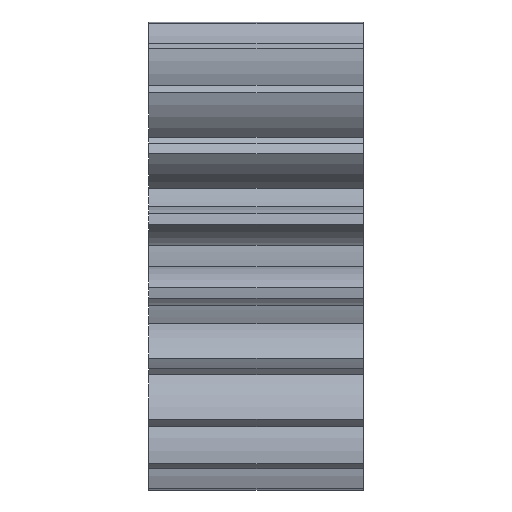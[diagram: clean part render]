
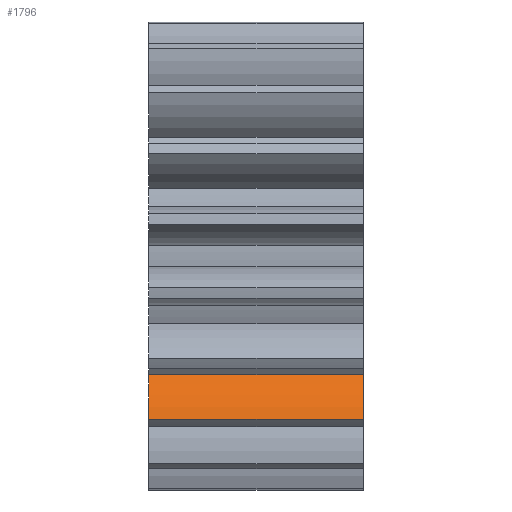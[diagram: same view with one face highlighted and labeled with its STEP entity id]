
A CAD part, front view. The second image highlights one B-rep face of the part: STEP entity #1796.
In plain terms, the highlighted cylindrical face has radius 2.54 mm (diameter 5.08 mm), a partial arc.
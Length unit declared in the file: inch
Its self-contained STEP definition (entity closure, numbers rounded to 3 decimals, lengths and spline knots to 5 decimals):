
#48 = ORIENTED_EDGE ( 'NONE', *, *, #2409, .T. ) ;
#69 = EDGE_CURVE ( 'NONE', #857, #1652, #2428, .T. ) ;
#89 = VECTOR ( 'NONE', #901, 39.37008 ) ;
#149 = VERTEX_POINT ( 'NONE', #2202 ) ;
#204 = VERTEX_POINT ( 'NONE', #644 ) ;
#374 = DIRECTION ( 'NONE',  ( 1., 0., 0. ) ) ;
#533 = DIRECTION ( 'NONE',  ( 0., 0., -1. ) ) ;
#565 = FACE_OUTER_BOUND ( 'NONE', #1903, .T. ) ;
#644 = CARTESIAN_POINT ( 'NONE',  ( 0.25, -0.16873, -0.13803 ) ) ;
#696 = LINE ( 'NONE', #1350, #1775 ) ;
#857 = VERTEX_POINT ( 'NONE', #1818 ) ;
#901 = DIRECTION ( 'NONE',  ( -1., 0., 0. ) ) ;
#920 = DIRECTION ( 'NONE',  ( 1., 0., 0. ) ) ;
#1014 = CIRCLE ( 'NONE', #1912, 0.1 ) ;
#1119 = EDGE_CURVE ( 'NONE', #204, #857, #2604, .T. ) ;
#1274 = CARTESIAN_POINT ( 'NONE',  ( 0.25, -0.10136, -0.21193 ) ) ;
#1350 = CARTESIAN_POINT ( 'NONE',  ( 0.125, -0.1989, -0.1899 ) ) ;
#1475 = DIRECTION ( 'NONE',  ( 0., 0., 1. ) ) ;
#1652 = VERTEX_POINT ( 'NONE', #2407 ) ;
#1701 = CARTESIAN_POINT ( 'NONE',  ( 0.25, -0.10136, -0.21193 ) ) ;
#1775 = VECTOR ( 'NONE', #920, 39.37008 ) ;
#1796 = ADVANCED_FACE ( 'NONE', ( #565 ), #2472, .T. ) ;
#1818 = CARTESIAN_POINT ( 'NONE',  ( 0., -0.16873, -0.13803 ) ) ;
#1903 = EDGE_LOOP ( 'NONE', ( #48, #2443, #1934, #2581 ) ) ;
#1912 = AXIS2_PLACEMENT_3D ( 'NONE', #1701, #2702, #2402 ) ;
#1934 = ORIENTED_EDGE ( 'NONE', *, *, #1119, .T. ) ;
#2202 = CARTESIAN_POINT ( 'NONE',  ( 0.25, -0.1989, -0.1899 ) ) ;
#2235 = DIRECTION ( 'NONE',  ( -1., 0., 0. ) ) ;
#2369 = AXIS2_PLACEMENT_3D ( 'NONE', #1274, #2235, #1475 ) ;
#2402 = DIRECTION ( 'NONE',  ( 0., -0.588, 0.809 ) ) ;
#2407 = CARTESIAN_POINT ( 'NONE',  ( 0., -0.1989, -0.1899 ) ) ;
#2409 = EDGE_CURVE ( 'NONE', #1652, #149, #696, .T. ) ;
#2428 = CIRCLE ( 'NONE', #2833, 0.1 ) ;
#2443 = ORIENTED_EDGE ( 'NONE', *, *, #2876, .T. ) ;
#2471 = CARTESIAN_POINT ( 'NONE',  ( 0., -0.10136, -0.21193 ) ) ;
#2472 = CYLINDRICAL_SURFACE ( 'NONE', #2369, 0.1 ) ;
#2581 = ORIENTED_EDGE ( 'NONE', *, *, #69, .T. ) ;
#2604 = LINE ( 'NONE', #2825, #89 ) ;
#2702 = DIRECTION ( 'NONE',  ( -1., 0., 0. ) ) ;
#2825 = CARTESIAN_POINT ( 'NONE',  ( 0.25, -0.16873, -0.13803 ) ) ;
#2833 = AXIS2_PLACEMENT_3D ( 'NONE', #2471, #374, #533 ) ;
#2876 = EDGE_CURVE ( 'NONE', #149, #204, #1014, .T. ) ;
